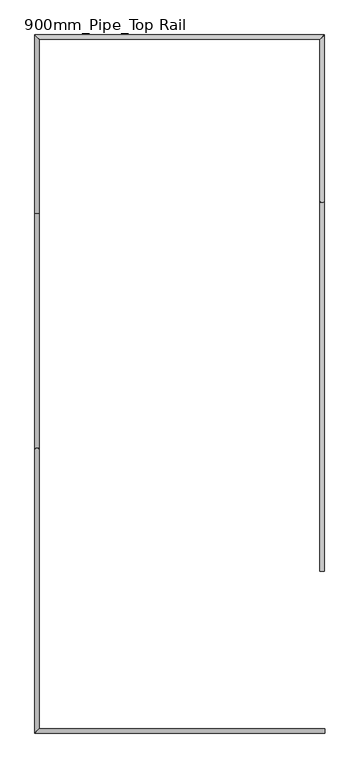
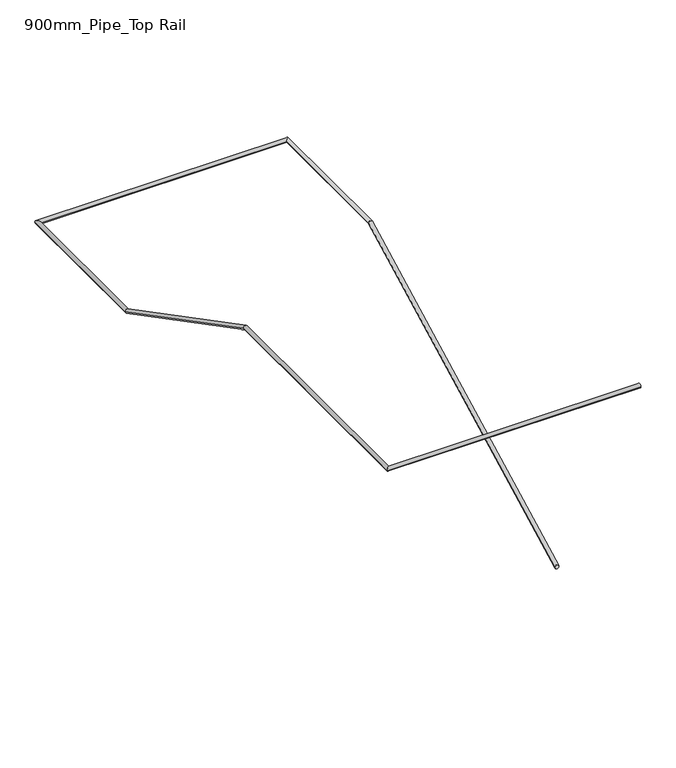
"""IFC4 building model written with IfcOpenShell, lengths in millimetres: railing geometry, 900mm_Pipe_Top Rail."""

from ifc_helpers import new_model, si_unit, frame, origin, place, context, project, spatial, circle_curve, ellipse_curve, source, transform, mapped, element, save
from ifc_brep_helpers import plane_surface, cylinder_surface, advanced_brep


def railing_900mm_pipe_top_rail_24617872(model_context):
    return source(origin(), model_context, "Body", "AdvancedBrep", [
        advanced_brep(
        [(-10790.2146087, -4880.1039323, 12140.0), (-10790.2146087, -4840.1039323, 12140.0), (-13345.3216429, -4840.1039323, 12140.0), (-13385.3216429, -4880.1039323, 12140.0), (-13345.3216429, -2340.00012, 12140.0), (-13385.3216429, -2340.00012, 12140.0), (-10835.2146087, 1319.8960692, 11046.25), (-10795.2146087, 1359.8960692, 11046.25), (-13385.3216429, 1359.8960692, 11046.25), (-13345.3216429, 1319.8960692, 11046.25), (-10835.2146087, -130.2050879, 11046.25), (-10795.2146087, -130.2050879, 11046.25), (-10795.2146087, -3435.1012772, 9324.9499015), (-10835.2146087, -3435.1012772, 9324.9499015), (-13385.3216429, -240.00012, 11046.25), (-13345.3216429, -240.00012, 11046.25)],
        [
            (0, 1, circle_curve(frame((-10790.2146087, -4860.1039323, 12140.0), z_axis=(1.0, 0.0, 0.0), x_axis=(0.0, 1.0, 0.0)), 20.0)),
            (1, 0, circle_curve(frame((-10790.2146087, -4860.1039323, 12140.0), z_axis=(1.0, 0.0, 0.0), x_axis=(0.0, 1.0, 0.0)), 20.0)),
            (2, 3, ellipse_curve(frame((-13365.3216429, -4860.1039323, 12140.0), z_axis=(0.7071067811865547, -0.7071067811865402, 0.0), x_axis=(-0.7071067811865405, -0.7071067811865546, 0.0)), 28.2842712, 20.0)),
            (3, 0),
            (1, 2),
            (3, 2, ellipse_curve(frame((-13365.3216429, -4860.1039323, 12140.0), z_axis=(0.7071067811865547, -0.7071067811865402, 0.0), x_axis=(-0.7071067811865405, -0.7071067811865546, 0.0)), 28.2842712, 20.0)),
            (4, 5, ellipse_curve(frame((-13365.3216429, -2340.00012, 12140.0), z_axis=(0.0, -0.9713171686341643, 0.23778763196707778), x_axis=(0.0, 0.23778763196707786, 0.9713171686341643)), 20.5905966, 20.0)),
            (5, 3),
            (2, 4),
            (5, 4, ellipse_curve(frame((-13365.3216429, -2340.00012, 12140.0), z_axis=(0.0, -0.9713171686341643, 0.23778763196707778), x_axis=(0.0, 0.23778763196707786, 0.9713171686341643)), 20.5905966, 20.0)),
            (6, 7, ellipse_curve(frame((-10815.2146087, 1339.8960692, 11046.25), z_axis=(-0.7071067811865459, 0.707106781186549, 0.0), x_axis=(0.7071067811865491, 0.7071067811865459, 0.0)), 28.2842712, 20.0)),
            (7, 8),
            (8, 9, ellipse_curve(frame((-13365.3216429, 1339.8960692, 11046.25), z_axis=(0.7071067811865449, 0.70710678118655, 0.0), x_axis=(0.7071067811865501, -0.7071067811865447, 0.0)), 28.2842712, 20.0)),
            (9, 6),
            (7, 6, ellipse_curve(frame((-10815.2146087, 1339.8960692, 11046.25), z_axis=(-0.7071067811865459, 0.707106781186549, 0.0), x_axis=(0.7071067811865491, 0.7071067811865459, 0.0)), 28.2842712, 20.0)),
            (9, 8, ellipse_curve(frame((-13365.3216429, 1339.8960692, 11046.25), z_axis=(0.7071067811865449, 0.70710678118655, 0.0), x_axis=(0.7071067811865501, -0.7071067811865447, 0.0)), 28.2842712, 20.0)),
            (10, 11, ellipse_curve(frame((-10815.2146087, -130.2050879, 11046.25), z_axis=(0.0, 0.9713171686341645, 0.23778763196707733), x_axis=(0.0, -0.23778763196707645, 0.9713171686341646)), 20.5905966, 20.0)),
            (11, 7),
            (6, 10),
            (11, 10, ellipse_curve(frame((-10815.2146087, -130.2050879, 11046.25), z_axis=(0.0, 0.9713171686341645, 0.23778763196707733), x_axis=(0.0, -0.23778763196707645, 0.9713171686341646)), 20.5905966, 20.0)),
            (12, 13, ellipse_curve(frame((-10815.2146087, -3435.1012772, 9324.9499015), z_axis=(0.0, -1.0, 0.0), x_axis=(0.0, 0.0, -1.0)), 22.5500985, 20.0)),
            (13, 12, ellipse_curve(frame((-10815.2146087, -3435.1012772, 9324.9499015), z_axis=(0.0, -1.0, 0.0), x_axis=(0.0, 0.0, -1.0)), 22.5500985, 20.0)),
            (12, 11),
            (10, 13),
            (8, 14),
            (14, 15, ellipse_curve(frame((-13365.3216429, -240.00012, 11046.25), z_axis=(0.0, 0.9713171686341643, -0.23778763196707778), x_axis=(0.0, 0.23778763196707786, 0.9713171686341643)), 20.5905966, 20.0)),
            (15, 9),
            (15, 14, ellipse_curve(frame((-13365.3216429, -240.00012, 11046.25), z_axis=(0.0, 0.9713171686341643, -0.23778763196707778), x_axis=(0.0, 0.23778763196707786, 0.9713171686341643)), 20.5905966, 20.0)),
            (14, 5),
            (4, 15),
        ],
        [
            plane_surface(frame((-10790.2146087, -4860.1039323, 12160.0), z_axis=(1.0, 0.0, 0.0), x_axis=(0.0, 1.0, 0.0))),
            cylinder_surface(frame((-13365.3216429, -4860.1039323, 12140.0), z_axis=(-1.0, 0.0, 0.0), x_axis=(0.0, 1.0, 0.0)), 20.0),
            cylinder_surface(frame((-13365.3216429, -2335.1039308, 12140.0), z_axis=(0.0, 1.0, 0.0), x_axis=(1.0, 0.0, 0.0)), 20.0),
            cylinder_surface(frame((-10815.2146087, 1339.8960692, 11046.25), z_axis=(1.0, 0.0, 0.0), x_axis=(0.0, -1.0, 0.0)), 20.0),
            cylinder_surface(frame((-10815.2146087, -135.1012772, 11046.25), z_axis=(0.0, -1.0, 0.0), x_axis=(-1.0, 0.0, 0.0)), 20.0),
            plane_surface(frame((-10815.2146087, -3435.1012772, 9347.5), z_axis=(0.0, -1.0, 0.0), x_axis=(0.0, 0.0, 1.0))),
            cylinder_surface(frame((-10815.2146087, -3425.8625888, 9329.7617183), z_axis=(0.0, -0.8869140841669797, -0.46193441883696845), x_axis=(-1.0, 0.0, 0.0)), 20.0),
            cylinder_surface(frame((-13365.3216429, 1339.8960692, 11046.25), z_axis=(0.0, 1.0, 0.0), x_axis=(1.0, 0.0, 0.0)), 20.0),
            cylinder_surface(frame((-13365.3216429, -244.3426192, 11048.5117183), z_axis=(0.0, 0.8869140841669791, -0.46193441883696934), x_axis=(1.0, 0.0, 0.0)), 20.0),
        ],
        [
            (0, [[1, 2]]),
            (1, [[3, 4, -2, 5]]),
            (1, [[6, -5, -1, -4]]),
            (2, [[7, 8, -3, 9]]),
            (2, [[10, -9, -6, -8]]),
            (3, [[11, 12, 13, 14]]),
            (3, [[15, -14, 16, -12]]),
            (4, [[17, 18, -11, 19]]),
            (4, [[20, -19, -15, -18]]),
            (5, [[21, 22]]),
            (6, [[-21, 23, -17, 24]]),
            (6, [[-22, -24, -20, -23]]),
            (7, [[-13, 25, 26, 27]]),
            (7, [[-16, -27, 28, -25]]),
            (8, [[-26, 29, -7, 30]]),
            (8, [[-28, -30, -10, -29]]),
        ],
    ),
    ])


if __name__ == "__main__":
    model = new_model("IFC4")
    model_context = context("Model", 3, world=origin())
    ifc_project = project(units=[si_unit("LENGTHUNIT", "METRE", prefix="MILLI")], contexts=[model_context])
    site = spatial("IfcSite", under=ifc_project)
    building = spatial("IfcBuilding", under=site)
    placement = place(None, origin())
    railing_900mm_pipe_top_rail_shape = railing_900mm_pipe_top_rail_24617872(model_context)
    element("IfcRailing", 1, ObjectType="900mm_Pipe_Top Rail", at=placement, inside=building, context=model_context, shape_type="MappedRepresentation", body=[
        mapped(railing_900mm_pipe_top_rail_shape, transform((0.0, 0.0, 0.0), x_axis=(1.0, 0.0, 0.0), y_axis=(0.0, 1.0, 0.0), z_axis=(0.0, 0.0, 1.0))),
    ])
    save(model, "model.ifc")
